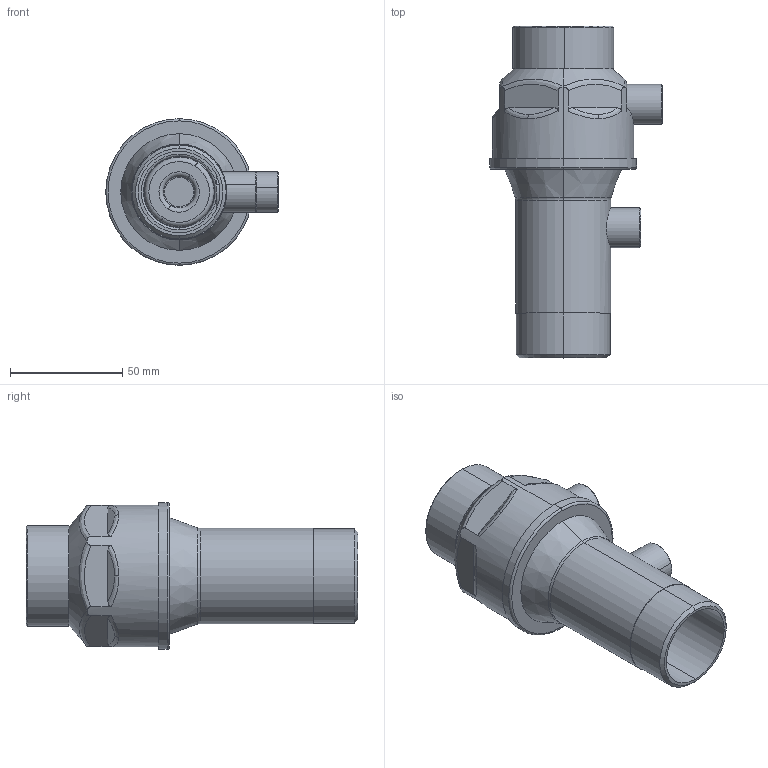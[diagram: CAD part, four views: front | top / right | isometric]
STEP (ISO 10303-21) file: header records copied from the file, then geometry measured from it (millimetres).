
FILE_DESCRIPTION (( 'STEP AP203' ), '1' );
FILE_NAME ('06B2132.STEP', '2021-05-13T13:29:21', ( '' ), ( '' ), 'SwSTEP 2.0', 'SolidWorks 2016', '' );
FILE_SCHEMA (( 'CONFIG_CONTROL_DESIGN' ));
Length unit declared in the file: millimetre
Products named in the file (15): 06I0608 X 1 1_4; 06F97003 X 1 1_4; 06M1406 X 1 1_4; 06B2134; 06B2135; 04D9905 X 1 1_4; 06E9961; 06B2137; 06I9603 X 1 1_4; 06B2127; 06B2132; 06B2133; 06B2138; 06B2130; 06I9610 X 1 1_4
Assembly tree (14 placements, depth 4):
  06B2132
    06B2133
      06B2135
      06I0608 X 1 1_4
      06B2127
    06B2134
      06B2138
        06B2137
        06B2130
      06I9610 X 1 1_4
      04D9905 X 1 1_4
      06I9603 X 1 1_4
      06M1406 X 1 1_4
      06E9961
      06F97003 X 1 1_4
Bounding box: 76.85 x 147.9 x 65.4 mm (x, y, z)
Volume: 63102.4 mm3; surface area: 70610.1 mm2
Topology: 11 solids, 11 shells, 316 faces, 786 edges, 498 vertices
Faces by surface type: cylinder 96, plane 87, torus 57, bspline 38, cone 38
Entity records: 17366 total; most frequent: CARTESIAN_POINT 8386, DIRECTION 1581, ORIENTED_EDGE 1572, EDGE_CURVE 786, AXIS2_PLACEMENT_3D 667, VERTEX_POINT 498, CIRCLE 369, EDGE_LOOP 354
